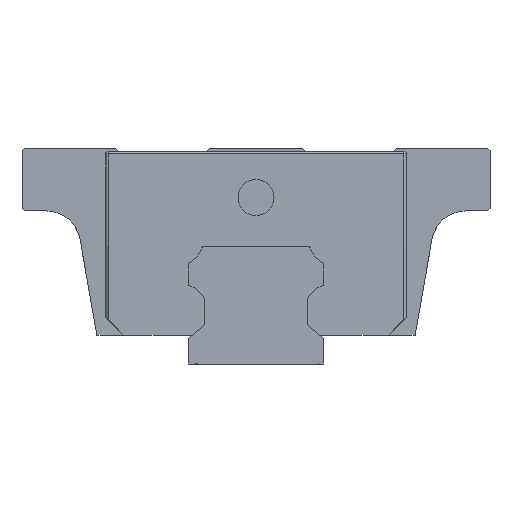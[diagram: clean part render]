
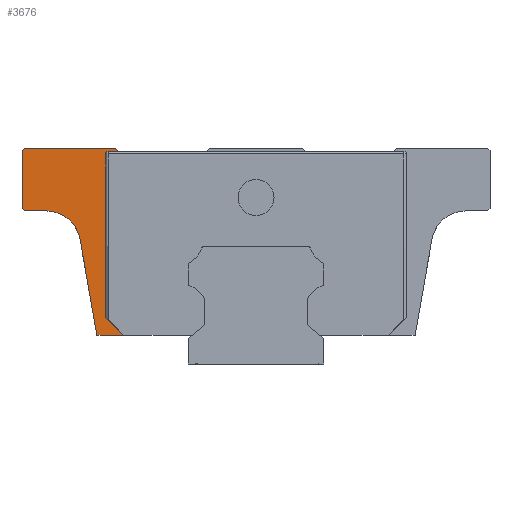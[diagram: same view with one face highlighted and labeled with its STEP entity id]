
A CAD part, left-side view. The second image highlights one B-rep face of the part: STEP entity #3676.
In plain terms, the highlighted planar face has unit normal (-1, 0, 0).
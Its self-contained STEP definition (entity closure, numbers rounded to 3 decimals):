
#284 = VECTOR ( 'NONE', #6472, 1000. ) ;
#320 = CIRCLE ( 'NONE', #4006, 3.75 ) ;
#321 = VECTOR ( 'NONE', #4585, 1000. ) ;
#365 = LINE ( 'NONE', #787, #815 ) ;
#372 = CARTESIAN_POINT ( 'NONE',  ( -11.45, 19.561, 13.901 ) ) ;
#592 = PLANE ( 'NONE',  #4383 ) ;
#641 = VERTEX_POINT ( 'NONE', #4877 ) ;
#657 = CARTESIAN_POINT ( 'NONE',  ( -11.45, 16.702, 5.2 ) ) ;
#704 = CARTESIAN_POINT ( 'NONE',  ( -11.45, 16.702, 23.335 ) ) ;
#706 = VECTOR ( 'NONE', #1788, 1000. ) ;
#708 = DIRECTION ( 'NONE',  ( 0., -0.174, -0.985 ) ) ;
#720 = VERTEX_POINT ( 'NONE', #372 ) ;
#755 = LINE ( 'NONE', #6326, #706 ) ;
#787 = CARTESIAN_POINT ( 'NONE',  ( -11.45, 15.233, 23.563 ) ) ;
#815 = VECTOR ( 'NONE', #6422, 1000. ) ;
#844 = ORIENTED_EDGE ( 'NONE', *, *, #1387, .T. ) ;
#856 = DIRECTION ( 'NONE',  ( 0., -1., 0. ) ) ;
#860 = VERTEX_POINT ( 'NONE', #1982 ) ;
#1016 = CARTESIAN_POINT ( 'NONE',  ( -11.45, 23.254, 13.25 ) ) ;
#1018 = EDGE_CURVE ( 'NONE', #4684, #4756, #755, .T. ) ;
#1110 = CARTESIAN_POINT ( 'NONE',  ( -11.45, 20.108, 17. ) ) ;
#1150 = CARTESIAN_POINT ( 'NONE',  ( -11.45, 16.442, 23.335 ) ) ;
#1171 = EDGE_CURVE ( 'NONE', #5828, #3508, #365, .T. ) ;
#1282 = LINE ( 'NONE', #5397, #3861 ) ;
#1362 = VECTOR ( 'NONE', #1964, 1000. ) ;
#1387 = EDGE_CURVE ( 'NONE', #860, #5947, #5259, .T. ) ;
#1674 = CARTESIAN_POINT ( 'NONE',  ( -11.45, 2.676, -6.064 ) ) ;
#1744 = DIRECTION ( 'NONE',  ( 0., 0., 1. ) ) ;
#1788 = DIRECTION ( 'NONE',  ( 0., 0., -1. ) ) ;
#1826 = CARTESIAN_POINT ( 'NONE',  ( -11.45, 15.6, 24. ) ) ;
#1925 = CARTESIAN_POINT ( 'NONE',  ( -11.45, 17.674, 3.2 ) ) ;
#1964 = DIRECTION ( 'NONE',  ( 0., 1., 0. ) ) ;
#1982 = CARTESIAN_POINT ( 'NONE',  ( -11.45, 25.74, 24. ) ) ;
#2043 = FACE_OUTER_BOUND ( 'NONE', #4825, .T. ) ;
#2230 = CARTESIAN_POINT ( 'NONE',  ( -11.45, 26., 17.26 ) ) ;
#2268 = LINE ( 'NONE', #657, #2585 ) ;
#2361 = VERTEX_POINT ( 'NONE', #2537 ) ;
#2395 = EDGE_CURVE ( 'NONE', #2361, #720, #320, .T. ) ;
#2424 = CIRCLE ( 'NONE', #6150, 0.26 ) ;
#2457 = LINE ( 'NONE', #4088, #1362 ) ;
#2537 = CARTESIAN_POINT ( 'NONE',  ( -11.45, 23.254, 17. ) ) ;
#2550 = VERTEX_POINT ( 'NONE', #2661 ) ;
#2554 = LINE ( 'NONE', #1674, #321 ) ;
#2576 = EDGE_CURVE ( 'NONE', #4684, #5400, #2424, .T. ) ;
#2585 = VECTOR ( 'NONE', #6319, 1000. ) ;
#2597 = DIRECTION ( 'NONE',  ( 0., 0., 1. ) ) ;
#2598 = CARTESIAN_POINT ( 'NONE',  ( -11.45, -6.587, 3.2 ) ) ;
#2620 = VECTOR ( 'NONE', #4055, 1000. ) ;
#2629 = CARTESIAN_POINT ( 'NONE',  ( -11.45, 19.976, 29.764 ) ) ;
#2661 = CARTESIAN_POINT ( 'NONE',  ( -11.45, 14.702, 3.2 ) ) ;
#2746 = ORIENTED_EDGE ( 'NONE', *, *, #5850, .T. ) ;
#2802 = VECTOR ( 'NONE', #3410, 1000. ) ;
#2859 = EDGE_CURVE ( 'NONE', #3508, #860, #2457, .T. ) ;
#2889 = EDGE_CURVE ( 'NONE', #720, #641, #5191, .T. ) ;
#2892 = ORIENTED_EDGE ( 'NONE', *, *, #2889, .T. ) ;
#2906 = CARTESIAN_POINT ( 'NONE',  ( -11.45, -18.027, 23.595 ) ) ;
#2974 = VERTEX_POINT ( 'NONE', #2230 ) ;
#3034 = VECTOR ( 'NONE', #5162, 1000. ) ;
#3059 = CARTESIAN_POINT ( 'NONE',  ( -11.45, 26., 23.74 ) ) ;
#3396 = CARTESIAN_POINT ( 'NONE',  ( -11.45, 15.26, 23.595 ) ) ;
#3410 = DIRECTION ( 'NONE',  ( 0., 1., 0. ) ) ;
#3508 = VERTEX_POINT ( 'NONE', #1826 ) ;
#3540 = ORIENTED_EDGE ( 'NONE', *, *, #1171, .T. ) ;
#3676 = ADVANCED_FACE ( 'NONE', ( #2043 ), #592, .T. ) ;
#3717 = EDGE_CURVE ( 'NONE', #4756, #2550, #2268, .T. ) ;
#3861 = VECTOR ( 'NONE', #856, 1000. ) ;
#3871 = CARTESIAN_POINT ( 'NONE',  ( -11.45, 25.74, 17. ) ) ;
#3955 = ORIENTED_EDGE ( 'NONE', *, *, #4832, .F. ) ;
#4006 = AXIS2_PLACEMENT_3D ( 'NONE', #1016, #4570, #2597 ) ;
#4055 = DIRECTION ( 'NONE',  ( 0., 0., -1. ) ) ;
#4088 = CARTESIAN_POINT ( 'NONE',  ( -11.45, 15.6, 24. ) ) ;
#4194 = DIRECTION ( 'NONE',  ( 1., 0., 0. ) ) ;
#4359 = ORIENTED_EDGE ( 'NONE', *, *, #4482, .T. ) ;
#4383 = AXIS2_PLACEMENT_3D ( 'NONE', #2598, #5601, #4639 ) ;
#4461 = LINE ( 'NONE', #4493, #2620 ) ;
#4482 = EDGE_CURVE ( 'NONE', #4803, #2361, #1282, .T. ) ;
#4493 = CARTESIAN_POINT ( 'NONE',  ( -11.45, 26., 24. ) ) ;
#4570 = DIRECTION ( 'NONE',  ( 1., 0., 0. ) ) ;
#4585 = DIRECTION ( 'NONE',  ( 0., -0.707, -0.707 ) ) ;
#4639 = DIRECTION ( 'NONE',  ( 0., 0., 1. ) ) ;
#4646 = VECTOR ( 'NONE', #708, 1000. ) ;
#4684 = VERTEX_POINT ( 'NONE', #704 ) ;
#4733 = ORIENTED_EDGE ( 'NONE', *, *, #3717, .F. ) ;
#4756 = VERTEX_POINT ( 'NONE', #4785 ) ;
#4785 = CARTESIAN_POINT ( 'NONE',  ( -11.45, 16.702, 5.2 ) ) ;
#4803 = VERTEX_POINT ( 'NONE', #3871 ) ;
#4813 = EDGE_CURVE ( 'NONE', #641, #2550, #5414, .T. ) ;
#4825 = EDGE_LOOP ( 'NONE', ( #3955, #3540, #4839, #844, #2746, #5679, #4359, #5065, #2892, #6364, #4733, #5500, #5418 ) ) ;
#4832 = EDGE_CURVE ( 'NONE', #5828, #5400, #6340, .T. ) ;
#4839 = ORIENTED_EDGE ( 'NONE', *, *, #2859, .T. ) ;
#4877 = CARTESIAN_POINT ( 'NONE',  ( -11.45, 17.674, 3.2 ) ) ;
#5065 = ORIENTED_EDGE ( 'NONE', *, *, #2395, .T. ) ;
#5104 = CARTESIAN_POINT ( 'NONE',  ( -11.45, 16.442, 23.595 ) ) ;
#5162 = DIRECTION ( 'NONE',  ( 0., 0.707, -0.707 ) ) ;
#5191 = LINE ( 'NONE', #1110, #4646 ) ;
#5259 = LINE ( 'NONE', #2629, #3034 ) ;
#5397 = CARTESIAN_POINT ( 'NONE',  ( -11.45, 26., 17. ) ) ;
#5400 = VERTEX_POINT ( 'NONE', #5104 ) ;
#5414 = LINE ( 'NONE', #1925, #284 ) ;
#5418 = ORIENTED_EDGE ( 'NONE', *, *, #2576, .T. ) ;
#5500 = ORIENTED_EDGE ( 'NONE', *, *, #1018, .F. ) ;
#5601 = DIRECTION ( 'NONE',  ( -1., 0., 0. ) ) ;
#5679 = ORIENTED_EDGE ( 'NONE', *, *, #6255, .T. ) ;
#5828 = VERTEX_POINT ( 'NONE', #3396 ) ;
#5850 = EDGE_CURVE ( 'NONE', #5947, #2974, #4461, .T. ) ;
#5947 = VERTEX_POINT ( 'NONE', #3059 ) ;
#6150 = AXIS2_PLACEMENT_3D ( 'NONE', #1150, #4194, #1744 ) ;
#6255 = EDGE_CURVE ( 'NONE', #2974, #4803, #2554, .T. ) ;
#6319 = DIRECTION ( 'NONE',  ( 0., -0.707, -0.707 ) ) ;
#6326 = CARTESIAN_POINT ( 'NONE',  ( -11.45, 16.702, 23.125 ) ) ;
#6340 = LINE ( 'NONE', #2906, #2802 ) ;
#6364 = ORIENTED_EDGE ( 'NONE', *, *, #4813, .T. ) ;
#6422 = DIRECTION ( 'NONE',  ( 0., 0.643, 0.766 ) ) ;
#6472 = DIRECTION ( 'NONE',  ( 0., -1., 0. ) ) ;
